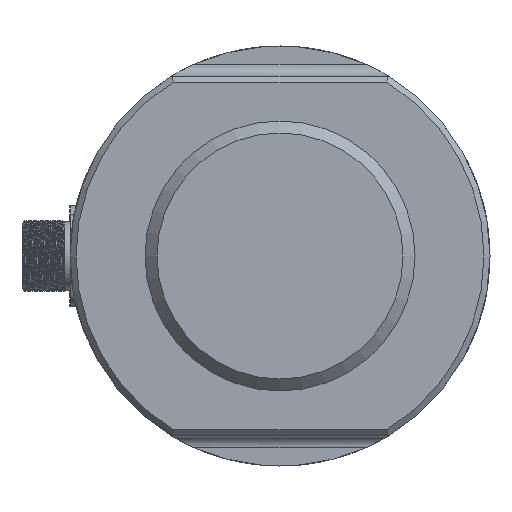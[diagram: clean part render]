
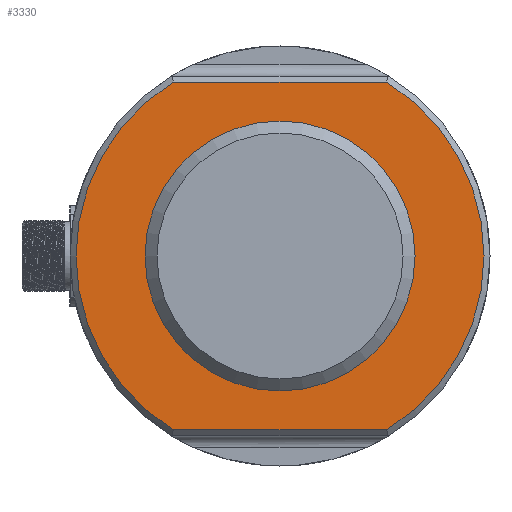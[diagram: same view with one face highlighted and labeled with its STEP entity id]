
A CAD part, left-side view. The second image highlights one B-rep face of the part: STEP entity #3330.
In plain terms, the highlighted planar face has unit normal (-1, 0, 0).
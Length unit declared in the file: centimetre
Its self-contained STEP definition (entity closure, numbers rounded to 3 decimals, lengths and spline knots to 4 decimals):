
#1156=VECTOR('',#3882,1.);
#1157=VECTOR('',#3884,1.);
#1278=LINE('',#5187,#1156);
#1279=LINE('',#5194,#1157);
#1483=VERTEX_POINT('',#5179);
#1484=VERTEX_POINT('',#5181);
#1485=VERTEX_POINT('',#5188);
#1486=VERTEX_POINT('',#5195);
#1487=VERTEX_POINT('',#5205);
#1682=CIRCLE('',#3542,3.4);
#1683=CIRCLE('',#3546,3.4);
#1684=CIRCLE('',#3548,2.25);
#1844=EDGE_CURVE('',#1483,#1484,#1682,.T.);
#1846=EDGE_CURVE('',#1485,#1483,#1278,.T.);
#1848=EDGE_CURVE('',#1484,#1486,#1279,.T.);
#1851=EDGE_CURVE('',#1486,#1485,#1683,.T.);
#1852=EDGE_CURVE('',#1487,#1487,#1684,.T.);
#2250=ORIENTED_EDGE('',*,*,#1852,.T.);
#2251=ORIENTED_EDGE('',*,*,#1844,.F.);
#2252=ORIENTED_EDGE('',*,*,#1846,.F.);
#2253=ORIENTED_EDGE('',*,*,#1851,.F.);
#2254=ORIENTED_EDGE('',*,*,#1848,.F.);
#2844=EDGE_LOOP('',(#2250));
#2845=EDGE_LOOP('',(#2251,#2252,#2253,#2254));
#3091=FACE_BOUND('',#2844,.T.);
#3092=FACE_BOUND('',#2845,.T.);
#3330=ADVANCED_FACE('',(#3091,#3092),#15853,.T.);
#3542=AXIS2_PLACEMENT_3D('',#5180,#3879,#3880);
#3546=AXIS2_PLACEMENT_3D('',#5202,#3888,#3889);
#3547=AXIS2_PLACEMENT_3D('',#5203,#3890,$);
#3548=AXIS2_PLACEMENT_3D('',#5204,#3891,#3892);
#3879=DIRECTION('',(1.,0.,0.));
#3880=DIRECTION('',(0.,3.4,0.));
#3882=DIRECTION('',(0.,1.,0.));
#3884=DIRECTION('',(0.,-1.,0.));
#3888=DIRECTION('',(1.,0.,0.));
#3889=DIRECTION('',(0.,-3.4,0.));
#3890=DIRECTION('',(-1.,0.,0.));
#3891=DIRECTION('',(1.,0.,0.));
#3892=DIRECTION('',(0.,-2.25,0.));
#5179=CARTESIAN_POINT('',(-5.,1.7748,-2.9));
#5180=CARTESIAN_POINT('',(-5.,0.,0.));
#5181=CARTESIAN_POINT('',(-5.,1.7748,2.9));
#5187=CARTESIAN_POINT('',(-5.,-15.3481,-2.9));
#5188=CARTESIAN_POINT('',(-5.,-1.7748,-2.9));
#5194=CARTESIAN_POINT('',(-5.,-15.3481,2.9));
#5195=CARTESIAN_POINT('',(-5.,-1.7748,2.9));
#5202=CARTESIAN_POINT('',(-5.,0.,0.));
#5203=CARTESIAN_POINT('',(-5.,-2.875,0.));
#5204=CARTESIAN_POINT('',(-5.,0.,0.));
#5205=CARTESIAN_POINT('',(-5.,-2.25,0.));
#15853=PLANE('',#3547);
